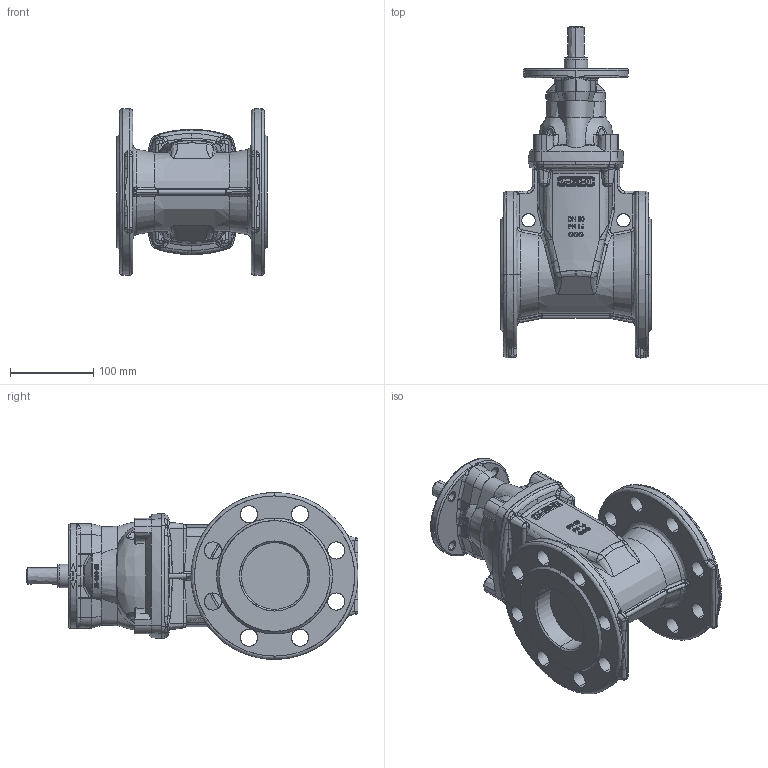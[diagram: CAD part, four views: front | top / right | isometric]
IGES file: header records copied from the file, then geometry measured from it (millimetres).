
Start section: SolidWorks IGES file using analytic representation for surfaces
Global section: file name: C:\outline drawing\15-42\1508042016\1508042016.IGS; native system: SolidWorks 2008; preprocessor: SolidWorks 2008; author: ch_xmm; date: 100923.092637; units: millimetre
Bounding box: 180 x 398 x 200 mm (x, y, z)
Surface area: 308293.1 mm2 (no closed solid volume)
Topology: 0 solids, 0 shells, 1187 faces, 16597 edges, 16552 vertices
Faces by surface type: bspline 868, revolution 319
